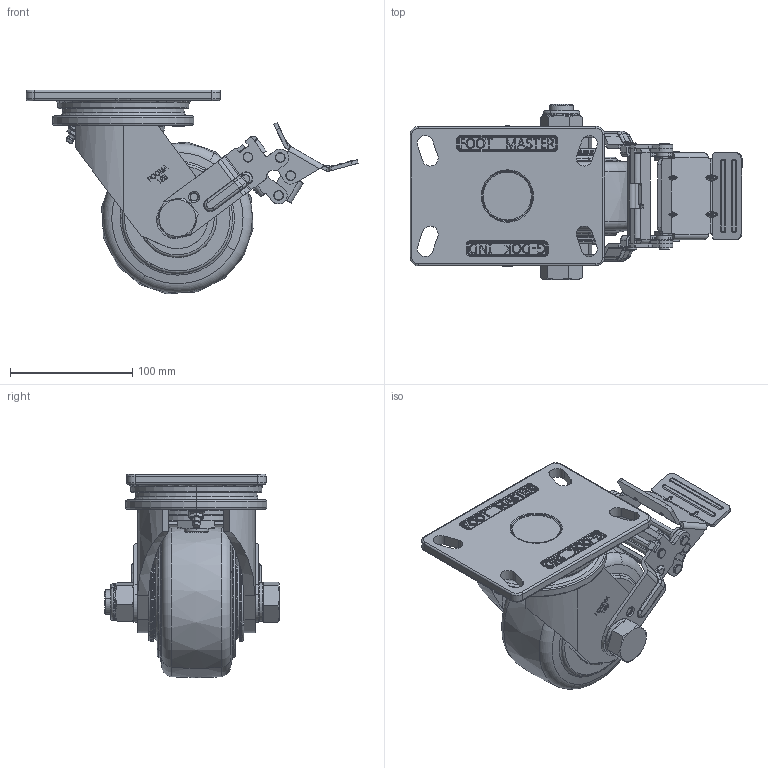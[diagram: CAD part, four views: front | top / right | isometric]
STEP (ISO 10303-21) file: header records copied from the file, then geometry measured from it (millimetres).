
FILE_DESCRIPTION((''),'2;1');
FILE_NAME('GF-125B-SF-MUD.stp','2012-06-06T16:20:23',(''),(''),'Mechanical Desktop 2009','Mechanical Desktop 2009',', , ');
FILE_SCHEMA(('CONFIG_CONTROL_DESIGN'));
Length unit declared in the file: millimetre
Products named in the file (2): GF-125B-SF-MUD; GF-SF-PLATE-FORGE
Assembly tree (1 placements, depth 2):
  GF-125B-SF-MUD
    GF-SF-PLATE-FORGE
Bounding box: 271.35 x 143 x 166.39 mm (x, y, z)
Volume: 1343432.6 mm3; surface area: 196648.5 mm2
Topology: 7 solids, 7 shells, 2217 faces, 5871 edges, 3685 vertices
Faces by surface type: bspline 823, plane 643, cylinder 538, torus 122, cone 87, sphere 4
Entity records: 83192 total; most frequent: CARTESIAN_POINT 31367, ORIENTED_EDGE 11668, DIRECTION 9648, EDGE_CURVE 5834, VERTEX_POINT 3684, AXIS2_PLACEMENT_3D 3491, VECTOR 2666, LINE 2666
